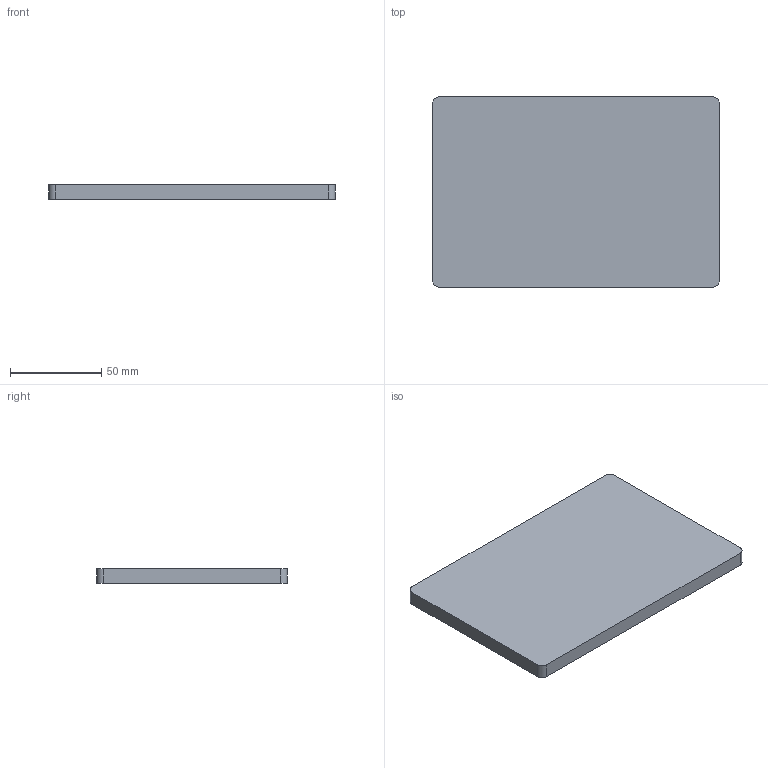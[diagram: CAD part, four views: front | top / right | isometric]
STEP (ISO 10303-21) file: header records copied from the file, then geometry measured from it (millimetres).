
FILE_DESCRIPTION (( 'STEP AP214' ), '1' );
FILE_NAME ('3561000551~cat.STEP', '2025-04-28T13:28:55', ( '' ), ( '' ), 'SwSTEP 2.0', 'SolidWorks 2025', '' );
FILE_SCHEMA (( 'AUTOMOTIVE_DESIGN' ));
Length unit declared in the file: millimetre
Products named in the file (1): 3561000551~cat
Bounding box: 157 x 104.5 x 8 mm (x, y, z)
Volume: 131163 mm3; surface area: 36925.3 mm2
Topology: 1 solids, 1 shells, 10 faces, 24 edges, 16 vertices
Faces by surface type: plane 6, cylinder 4
Entity records: 319 total; most frequent: DIRECTION 54, CARTESIAN_POINT 51, ORIENTED_EDGE 48, EDGE_CURVE 24, AXIS2_PLACEMENT_3D 19, VERTEX_POINT 16, VECTOR 16, LINE 16
